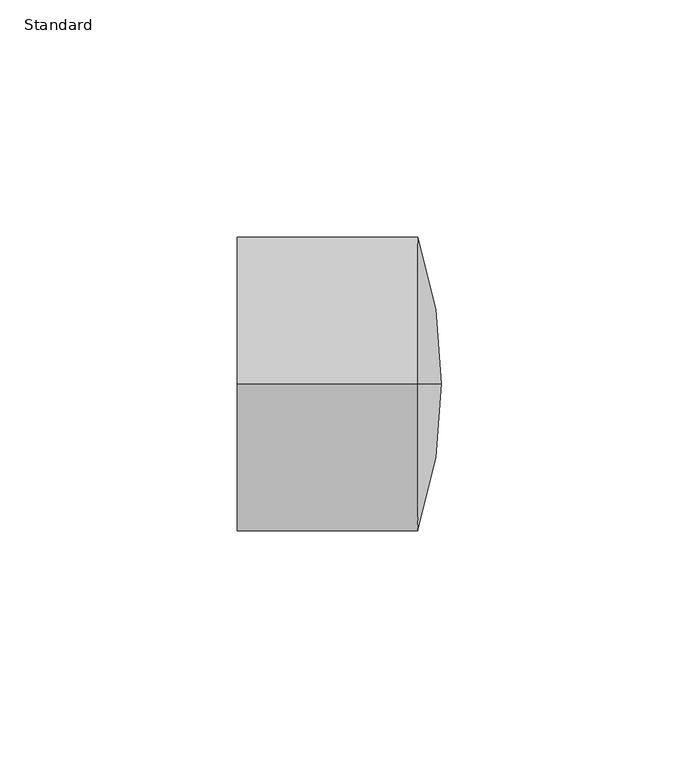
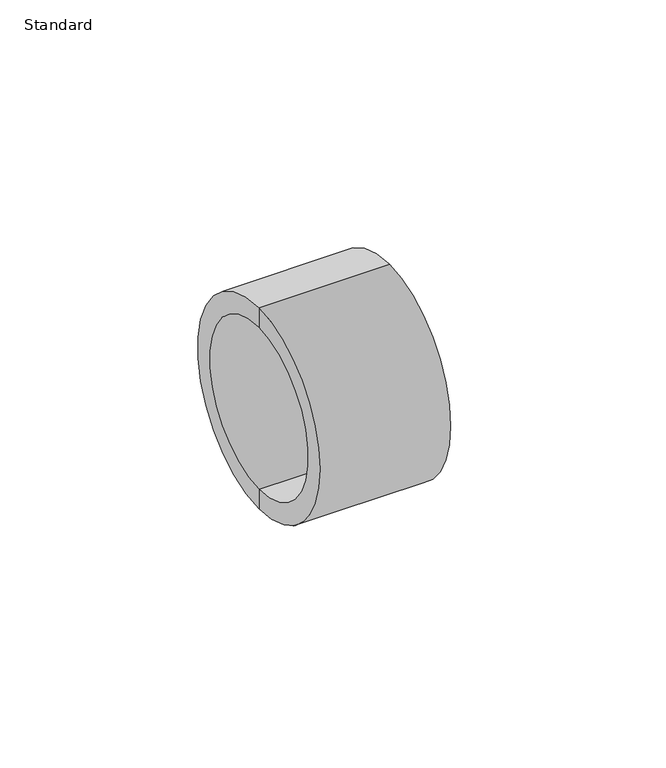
"""IFC4 building model written with IfcOpenShell, lengths in millimetres: pipe fitting geometry, Durapipe_PipeFitting_PVC_Cap : Standard."""

import ifcopenshell
import ifcopenshell.guid

model = None  # the IFC model being written
_history = None  # IfcOwnerHistory: only IFC2X3 demands one
_inside = {}  # id of a spatial element -> (the spatial element, [elements in it])
_under = {}  # id of a project, library or spatial element -> (it, [spatial elements below it])
_declared = {}  # id of a project -> (the project, [libraries it declares])
_typed = {}  # id of a type object -> (the type object, [elements of that type])
_made_of = {}  # id of a material, layer set ... -> (it, [elements and type objects made of it])


def new_model(schema):
    """Start an empty IFC model of exactly this schema.

    Asked for "IFC4X3", IfcOpenShell would pick the latest addendum, in which some entities
    have other attributes; the version numbers below select the first issue.
    IFC2X3 requires an IfcOwnerHistory on every rooted entity: one is made here for all.
    """
    global model, _history
    if schema == "IFC4X3":
        model = ifcopenshell.file(schema_version=(4, 3, 0, 0))
    else:
        model = ifcopenshell.file(schema=schema)
    _inside.clear()
    _under.clear()
    _declared.clear()
    _typed.clear()
    _made_of.clear()
    _history = None
    if model.schema == "IFC2X3":
        org = make("IfcOrganization", Name="unknown")
        user = make(
            "IfcPersonAndOrganization",
            ThePerson=make("IfcPerson", FamilyName="unknown"),
            TheOrganization=org,
        )
        app = make(
            "IfcApplication",
            ApplicationDeveloper=org,
            Version="unknown",
            ApplicationFullName="unknown",
            ApplicationIdentifier="unknown",
        )
        _history = make(
            "IfcOwnerHistory",
            OwningUser=user,
            OwningApplication=app,
            ChangeAction="ADDED",
            CreationDate=0,
        )
    return model


def make(cls, **values):
    """One entity of the class cls with the attributes given. An attribute that is None is left unset."""
    return model.create_entity(
        cls, **{name: value for name, value in values.items() if value is not None}
    )


def rooted(cls, **values):
    """An entity with a GlobalId (a new one), such as an element, a storey or a relation."""
    return make(cls, GlobalId=ifcopenshell.guid.new(), OwnerHistory=_history, **values)


def si_unit(unit_type, name, prefix=None):
    """IfcSIUnit, for example si_unit("LENGTHUNIT", "METRE", prefix="MILLI")."""
    return make("IfcSIUnit", UnitType=unit_type, Prefix=prefix, Name=name)


def assignment(units):
    """IfcUnitAssignment: the units of a project."""
    return None if units is None else make("IfcUnitAssignment", Units=units)


def point(xyz):
    """IfcCartesianPoint."""
    return None if xyz is None else make("IfcCartesianPoint", Coordinates=xyz)


def direction(xyz):
    """IfcDirection."""
    return None if xyz is None else make("IfcDirection", DirectionRatios=xyz)


def frame(location, z_axis=None, x_axis=None):
    """IfcAxis2Placement3D, a coordinate frame: its origin and axes. An axis left out is left unset."""
    return make(
        "IfcAxis2Placement3D",
        Location=point(location),
        Axis=direction(z_axis),
        RefDirection=direction(x_axis),
    )


def origin():
    """The frame at (0, 0, 0) with its axes left unset."""
    return frame((0.0, 0.0, 0.0))


def place(relative_to, where):
    """IfcLocalPlacement: puts the frame where relative to a parent placement (None: the world)."""
    return make(
        "IfcLocalPlacement", PlacementRelTo=relative_to, RelativePlacement=where
    )


def context(
    kind, dimensions, precision=None, world=None, true_north=None, identifier=None
):
    """IfcGeometricRepresentationContext, for example the 3D "Model" context."""
    return make(
        "IfcGeometricRepresentationContext",
        ContextIdentifier=identifier,
        ContextType=kind,
        CoordinateSpaceDimension=dimensions,
        Precision=precision,
        WorldCoordinateSystem=world,
        TrueNorth=true_north,
    )


def project(units=None, contexts=None):
    """IfcProject with its units and contexts."""
    return rooted(
        "IfcProject",
        Name="project",
        RepresentationContexts=contexts,
        UnitsInContext=assignment(units),
    )


def spatial(cls, under=None, at=None, **own):
    """A site, building, storey or space (cls), placed at a placement, below another one or the project."""
    s = rooted(cls, ObjectPlacement=at, **own)
    if under is not None:
        _under.setdefault(under.id(), (under, []))[1].append(s)
    return s


def polyline(points):
    """IfcPolyline through the points."""
    return make("IfcPolyline", Points=[point(p) for p in points])


def circle_curve(where, radius):
    """IfcCircle in the frame where."""
    return make("IfcCircle", Position=where, Radius=radius)


def ellipse_curve(where, semi_axis1, semi_axis2):
    """IfcEllipse in the frame where."""
    return make(
        "IfcEllipse", Position=where, SemiAxis1=semi_axis1, SemiAxis2=semi_axis2
    )


def trimmed(basis, trim1, trim2, sense, master):
    """IfcTrimmedCurve: the piece of a basis curve between two trims."""
    return make(
        "IfcTrimmedCurve",
        BasisCurve=basis,
        Trim1=trim1,
        Trim2=trim2,
        SenseAgreement=sense,
        MasterRepresentation=master,
    )


def shape(context_of_items, identifier, shape_type, items):
    """IfcShapeRepresentation: the items that make up one representation, for example the "Body"."""
    return make(
        "IfcShapeRepresentation",
        ContextOfItems=context_of_items,
        RepresentationIdentifier=identifier,
        RepresentationType=shape_type,
        Items=items,
    )


def source(mapping_origin, context_of_items, identifier, shape_type, items):
    """IfcRepresentationMap: a shape defined once, which mapped items show again and again."""
    return make(
        "IfcRepresentationMap",
        MappingOrigin=mapping_origin,
        MappedRepresentation=shape(context_of_items, identifier, shape_type, items),
    )


def transform(
    local_origin,
    x_axis=None,
    y_axis=None,
    z_axis=None,
    scale=None,
    scale2=None,
    scale3=None,
    uniform=True,
):
    """IfcCartesianTransformationOperator3D, or its non-uniform kind. x_axis, y_axis, z_axis: its Axis1, 2, 3."""
    if uniform:
        return make(
            "IfcCartesianTransformationOperator3D",
            Axis1=direction(x_axis),
            Axis2=direction(y_axis),
            LocalOrigin=point(local_origin),
            Scale=scale,
            Axis3=direction(z_axis),
        )
    return make(
        "IfcCartesianTransformationOperator3DnonUniform",
        Axis1=direction(x_axis),
        Axis2=direction(y_axis),
        LocalOrigin=point(local_origin),
        Scale=scale,
        Axis3=direction(z_axis),
        Scale2=scale2,
        Scale3=scale3,
    )


def mapped(mapping_source, mapping_target):
    """IfcMappedItem: shows the shape of a source again, moved by a transform."""
    return make(
        "IfcMappedItem", MappingSource=mapping_source, MappingTarget=mapping_target
    )


def made_of(thing, what):
    """Note that an element or type object is made of a material, layer set ...; save() writes the relation."""
    if what is not None:
        _made_of.setdefault(what.id(), (what, []))[1].append(thing)
    return thing


def element(
    cls,
    number,
    at=None,
    inside=None,
    cuts=None,
    type_object=None,
    material=None,
    context=None,
    identifier="Body",
    shape_type=None,
    held_by="IfcProductDefinitionShape",
    body=None,
    shapes=None,
    **own,
):
    """One element of the class cls, such as IfcWall. Its Tag is "e" and its number.

    at: its placement. inside: the storey or other place that contains it. cuts: it is an
    opening in that element (IfcRelVoidsElement). A single representation is given by context,
    identifier, shape_type and body (its items); several are given by shapes. held_by: the class
    of the entity that holds the representations. save() writes the other relations.
    """
    e = rooted(cls, Tag="e%d" % number, ObjectPlacement=at, **own)
    if body is not None:
        shapes = [shape(context, identifier, shape_type, body)]
    if shapes is not None:
        e.Representation = make(held_by, Representations=shapes)
    if inside is not None:
        _inside.setdefault(inside.id(), (inside, []))[1].append(e)
    if cuts is not None:
        rooted(
            "IfcRelVoidsElement", RelatingBuildingElement=cuts, RelatedOpeningElement=e
        )
    if type_object is not None:
        _typed.setdefault(type_object.id(), (type_object, []))[1].append(e)
    return made_of(e, material)


def aggregate(whole, parts):
    """IfcRelAggregates: a whole, such as a stair, and the parts it consists of."""
    return rooted("IfcRelAggregates", RelatingObject=whole, RelatedObjects=parts)


def save(model, path):
    """Write the relations noted so far, then the file.

    IfcRelAggregates (storeys below a building ...), IfcRelContainedInSpatialStructure (elements
    in a storey), IfcRelDefinesByType, IfcRelAssociatesMaterial and IfcRelDeclares: one each for
    every whole, place, type object, material and project.
    """
    for whole, parts in _under.values():
        aggregate(whole, parts)
    for where, things in _inside.values():
        rooted(
            "IfcRelContainedInSpatialStructure",
            RelatedElements=things,
            RelatingStructure=where,
        )
    for kind, things in _typed.values():
        rooted("IfcRelDefinesByType", RelatedObjects=things, RelatingType=kind)
    for what, things in _made_of.values():
        rooted("IfcRelAssociatesMaterial", RelatedObjects=things, RelatingMaterial=what)
    for by, libraries in _declared.values():
        rooted("IfcRelDeclares", RelatingContext=by, RelatedDefinitions=libraries)
    model.write(path)


def plane_surface(at):
    """IfcPlane: the flat surface through the origin of the frame at, square to its z axis."""
    return make("IfcPlane", Position=at)


def cylinder_surface(at, radius):
    """IfcCylindricalSurface: all points at the distance radius from the z axis of the frame at."""
    return make("IfcCylindricalSurface", Position=at, Radius=radius)


def revolved_surface(curve, axis_point, axis_direction):
    """IfcSurfaceOfRevolution: the curve turned about the line through axis_point along axis_direction."""
    return make(
        "IfcSurfaceOfRevolution",
        SweptCurve=make("IfcArbitraryOpenProfileDef", ProfileType="CURVE", Curve=curve),
        AxisPosition=make("IfcAxis1Placement", Location=point(axis_point), Axis=direction(axis_direction)),
    )


def advanced_brep(points, edges, surfaces, faces):
    """IfcAdvancedBrep: a solid bounded by faces that lie on surfaces and meet in shared edges.

    An edge is (start, end): straight between two places in points (the first is 0);
    or (start, end, curve); or (start, end, curve, False) where it runs against its curve.
    A face is (place in surfaces, loops), or (place, loops, False) where it looks against
    its surface's normal. A loop lists edges by number (the first is 1), with a minus sign
    where the edge is run from its end to its start. The first loop is the outer one.
    """
    corners = [point(p) for p in points]
    vertices = [make("IfcVertexPoint", VertexGeometry=c) for c in corners]
    made = []
    for start, end, *more in edges:
        made.append(
            make(
                "IfcEdgeCurve",
                EdgeStart=vertices[start],
                EdgeEnd=vertices[end],
                EdgeGeometry=more[0] if more else make("IfcPolyline", Points=[corners[start], corners[end]]),
                SameSense=more[1] if len(more) > 1 else True,
            )
        )
    hull = []
    for where, loops, *sense in faces:
        bounds = []
        for j, loop in enumerate(loops):
            ring = [make("IfcOrientedEdge", EdgeElement=made[abs(k) - 1], Orientation=k > 0) for k in loop]
            bounds.append(
                make(
                    "IfcFaceOuterBound" if j == 0 else "IfcFaceBound",
                    Bound=make("IfcEdgeLoop", EdgeList=ring),
                    Orientation=True,
                )
            )
        hull.append(make("IfcAdvancedFace", Bounds=bounds, FaceSurface=surfaces[where], SameSense=sense[0] if sense else True))
    return make("IfcAdvancedBrep", Outer=make("IfcClosedShell", CfsFaces=hull))


def standard_99bdedc1(model_context):
    return source(origin(), model_context, "Body", "AdvancedBrep", [
        advanced_brep(
        [(0.0, 0.0, 0.0), (0.0, 0.0, 25.0), (0.0, 0.0, -25.0), (7.0, 0.0, -31.0), (7.0, 0.0, 31.0), (12.0, 0.0, 0.0), (-31.0, 0.0, -31.0), (-31.0, 0.0, 31.0), (-31.0, 0.0, -25.0), (-31.0, 0.0, 25.0)],
        [
            (0, 1),
            (1, 2, circle_curve(frame((0.0, 0.0, 0.0), z_axis=(-1.0, 0.0, 0.0), x_axis=(0.0, 0.0, 1.0)), 25.0)),
            (2, 0),
            (2, 1, circle_curve(frame((0.0, 0.0, 0.0), z_axis=(-1.0, 0.0, 0.0), x_axis=(0.0, 0.0, 1.0)), 25.0)),
            (3, 4, circle_curve(frame((7.0, 0.0, 0.0), z_axis=(1.0, 0.0, 0.0), x_axis=(0.0, 0.0, 1.0)), 31.0)),
            (4, 5, circle_curve(frame((-79.6285536, 0.0, 1.1244268), z_axis=(0.0, 1.0, 0.0), x_axis=(1.0, 0.0, 0.0)), 91.6354525)),
            (5, 3, circle_curve(frame((-79.6285536, 0.0, -1.1244268), z_axis=(0.0, 1.0, 0.0), x_axis=(1.0, 0.0, 0.0)), 91.6354525)),
            (4, 3, circle_curve(frame((7.0, 0.0, 0.0), z_axis=(1.0, 0.0, 0.0), x_axis=(0.0, 0.0, 1.0)), 31.0)),
            (6, 7, circle_curve(frame((-31.0, 0.0, 0.0), z_axis=(1.0, 0.0, 0.0), x_axis=(0.0, 0.0, 1.0)), 31.0)),
            (7, 4),
            (3, 6),
            (7, 6, circle_curve(frame((-31.0, 0.0, 0.0), z_axis=(1.0, 0.0, 0.0), x_axis=(0.0, 0.0, 1.0)), 31.0)),
            (8, 9, circle_curve(frame((-31.0, 0.0, 0.0), z_axis=(1.0, 0.0, 0.0), x_axis=(0.0, 0.0, 1.0)), 25.0)),
            (9, 7),
            (6, 8),
            (9, 8, circle_curve(frame((-31.0, 0.0, 0.0), z_axis=(1.0, 0.0, 0.0), x_axis=(0.0, 0.0, 1.0)), 25.0)),
            (1, 9),
            (8, 2),
        ],
        [
            plane_surface(frame((0.0, 0.0, 0.0), z_axis=(-1.0, 0.0, 0.0), x_axis=(0.0, 0.0, 1.0))),
            revolved_surface(trimmed(ellipse_curve(frame((-79.6285536, 0.0, 1.1244268), z_axis=(0.0, -1.0, 0.0), x_axis=(1.0, 0.0, 0.0)), 91.6354525, 91.6354525), [point((12.0, 0.0, 0.0))], [point((7.0, 0.0, 31.0))], True, "CARTESIAN"), (-1530.1299635, 0.0, 0.0), (-1.0, 0.0, 0.0)),
            cylinder_surface(frame((-1530.1299635, 0.0, 0.0), z_axis=(-1.0, 0.0, 0.0), x_axis=(0.0, 0.0, 1.0)), 31.0),
            plane_surface(frame((-31.0, 0.0, 0.0), z_axis=(-1.0, 0.0, 0.0), x_axis=(0.0, 0.0, 1.0))),
            revolved_surface(polyline([(-31.0, 0.0, 25.0), (0.0, 0.0, 25.0)]), (-1530.1299635, 0.0, 0.0), (-1.0, 0.0, 0.0)),
        ],
        [
            (0, [[1, 2, 3]]),
            (0, [[-3, 4, -1]]),
            (1, [[5, 6, 7]]),
            (1, [[8, -7, -6]]),
            (2, [[9, 10, -5, 11]]),
            (2, [[12, -11, -8, -10]]),
            (3, [[13, 14, -9, 15]]),
            (3, [[16, -15, -12, -14]]),
            (4, [[-2, 17, -13, 18]]),
            (4, [[-4, -18, -16, -17]]),
        ],
    ),
    ])


if __name__ == "__main__":
    model = new_model("IFC4")
    model_context = context("Model", 3, world=origin())
    ifc_project = project(units=[si_unit("LENGTHUNIT", "METRE", prefix="MILLI")], contexts=[model_context])
    site = spatial("IfcSite", under=ifc_project)
    building = spatial("IfcBuilding", under=site)
    placement = place(None, origin())
    standard_shape = standard_99bdedc1(model_context)
    element("IfcPipeFitting", 1, ObjectType="Durapipe_PipeFitting_PVC_Cap : Standard", at=placement, inside=building, context=model_context, shape_type="MappedRepresentation", body=[
        mapped(standard_shape, transform((0.0, 0.0, 0.0), x_axis=(1.0, 0.0, 0.0), y_axis=(0.0, 1.0, 0.0), z_axis=(0.0, 0.0, 1.0))),
    ])
    save(model, "model.ifc")
